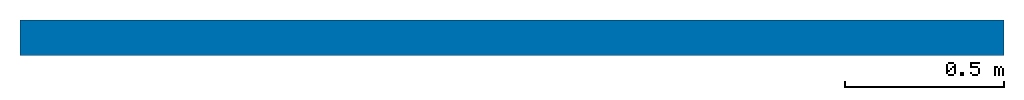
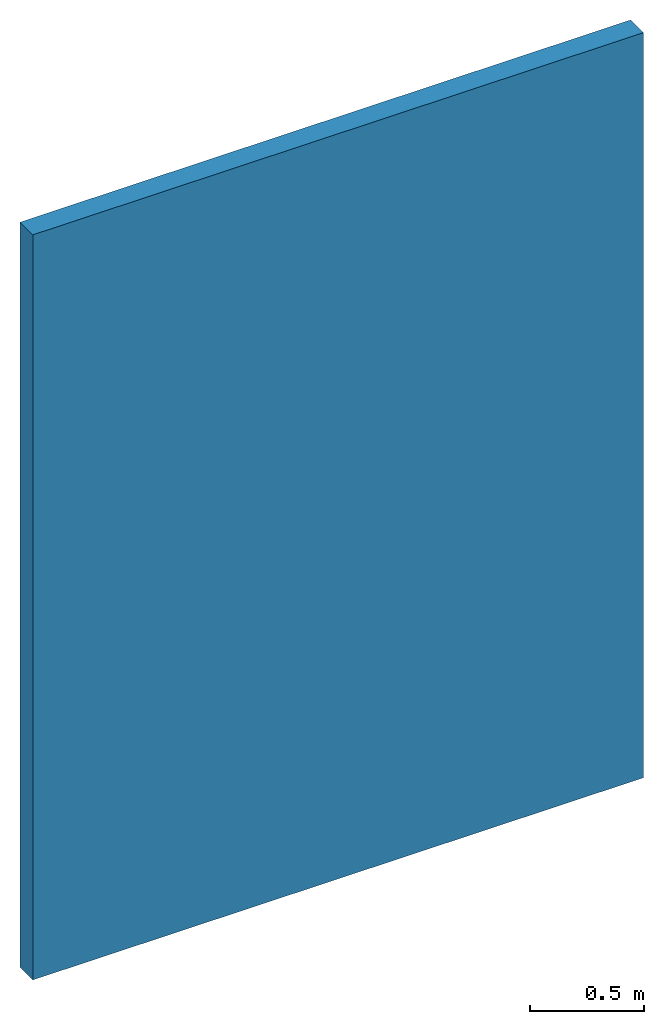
# One storey: 1 wall.
"""IFC2X3 building model written with IfcOpenShell, lengths in millimetres."""

import ifcopenshell
import ifcopenshell.guid

model = None  # the IFC model being written
_history = None  # IfcOwnerHistory: only IFC2X3 demands one
_inside = {}  # id of a spatial element -> (the spatial element, [elements in it])
_under = {}  # id of a project, library or spatial element -> (it, [spatial elements below it])
_declared = {}  # id of a project -> (the project, [libraries it declares])
_typed = {}  # id of a type object -> (the type object, [elements of that type])
_made_of = {}  # id of a material, layer set ... -> (it, [elements and type objects made of it])


def new_model(schema):
    """Start an empty IFC model of exactly this schema.

    Asked for "IFC4X3", IfcOpenShell would pick the latest addendum, in which some entities
    have other attributes; the version numbers below select the first issue.
    IFC2X3 requires an IfcOwnerHistory on every rooted entity: one is made here for all.
    """
    global model, _history
    if schema == "IFC4X3":
        model = ifcopenshell.file(schema_version=(4, 3, 0, 0))
    else:
        model = ifcopenshell.file(schema=schema)
    _inside.clear()
    _under.clear()
    _declared.clear()
    _typed.clear()
    _made_of.clear()
    _history = None
    if model.schema == "IFC2X3":
        org = make("IfcOrganization", Name="unknown")
        user = make(
            "IfcPersonAndOrganization",
            ThePerson=make("IfcPerson", FamilyName="unknown"),
            TheOrganization=org,
        )
        app = make(
            "IfcApplication",
            ApplicationDeveloper=org,
            Version="unknown",
            ApplicationFullName="unknown",
            ApplicationIdentifier="unknown",
        )
        _history = make(
            "IfcOwnerHistory",
            OwningUser=user,
            OwningApplication=app,
            ChangeAction="ADDED",
            CreationDate=0,
        )
    return model


def make(cls, **values):
    """One entity of the class cls with the attributes given. An attribute that is None is left unset."""
    return model.create_entity(
        cls, **{name: value for name, value in values.items() if value is not None}
    )


def entity(cls, *values):
    """Any entity or typed value of the class cls, its attributes in the order of the schema. None: left unset."""
    e = model.create_entity(cls)
    for i, value in enumerate(values):
        if value is not None:
            e[i] = value
    return e


def rooted(cls, **values):
    """An entity with a GlobalId (a new one), such as an element, a storey or a relation."""
    return make(cls, GlobalId=ifcopenshell.guid.new(), OwnerHistory=_history, **values)


def si_unit(unit_type, name, prefix=None):
    """IfcSIUnit, for example si_unit("LENGTHUNIT", "METRE", prefix="MILLI")."""
    return make("IfcSIUnit", UnitType=unit_type, Prefix=prefix, Name=name)


def converted_unit(unit_type, name, factor, base, dimensions=None, offset=None):
    """IfcConversionBasedUnit, such as the inch: factor (a typed value) times the base unit."""
    return make(
        "IfcConversionBasedUnit"
        if offset is None
        else "IfcConversionBasedUnitWithOffset",
        ConversionOffset=offset,
        Dimensions=None
        if dimensions is None
        else entity("IfcDimensionalExponents", *dimensions),
        UnitType=unit_type,
        Name=name,
        ConversionFactor=make(
            "IfcMeasureWithUnit", ValueComponent=factor, UnitComponent=base
        ),
    )


def derived_unit(unit_type, elements):
    """IfcDerivedUnit: a product of units, each with its exponent."""
    return make(
        "IfcDerivedUnit",
        Elements=[
            make("IfcDerivedUnitElement", Unit=unit, Exponent=power)
            for unit, power in elements
        ],
        UnitType=unit_type,
    )


def assignment(units):
    """IfcUnitAssignment: the units of a project."""
    return None if units is None else make("IfcUnitAssignment", Units=units)


def point(xyz):
    """IfcCartesianPoint."""
    return None if xyz is None else make("IfcCartesianPoint", Coordinates=xyz)


def direction(xyz):
    """IfcDirection."""
    return None if xyz is None else make("IfcDirection", DirectionRatios=xyz)


def frame(location, z_axis=None, x_axis=None):
    """IfcAxis2Placement3D, a coordinate frame: its origin and axes. An axis left out is left unset."""
    return make(
        "IfcAxis2Placement3D",
        Location=point(location),
        Axis=direction(z_axis),
        RefDirection=direction(x_axis),
    )


def frame_2d(location, x_axis=None):
    """IfcAxis2Placement2D, a coordinate frame in the plane: its origin and x axis."""
    return make(
        "IfcAxis2Placement2D", Location=point(location), RefDirection=direction(x_axis)
    )


def origin():
    """The frame at (0, 0, 0) with its axes left unset."""
    return frame((0.0, 0.0, 0.0))


def place(relative_to, where):
    """IfcLocalPlacement: puts the frame where relative to a parent placement (None: the world)."""
    return make(
        "IfcLocalPlacement", PlacementRelTo=relative_to, RelativePlacement=where
    )


def context(
    kind, dimensions, precision=None, world=None, true_north=None, identifier=None
):
    """IfcGeometricRepresentationContext, for example the 3D "Model" context."""
    return make(
        "IfcGeometricRepresentationContext",
        ContextIdentifier=identifier,
        ContextType=kind,
        CoordinateSpaceDimension=dimensions,
        Precision=precision,
        WorldCoordinateSystem=world,
        TrueNorth=true_north,
    )


def subcontext(parent, identifier, kind, view, scale=None):
    """IfcGeometricRepresentationSubContext, for example "Body" below "Model"."""
    return make(
        "IfcGeometricRepresentationSubContext",
        ContextIdentifier=identifier,
        ContextType=kind,
        ParentContext=parent,
        TargetScale=scale,
        TargetView=view,
    )


def project(units=None, contexts=None):
    """IfcProject with its units and contexts."""
    return rooted(
        "IfcProject",
        Name="project",
        RepresentationContexts=contexts,
        UnitsInContext=assignment(units),
    )


def spatial(cls, under=None, at=None, **own):
    """A site, building, storey or space (cls), placed at a placement, below another one or the project."""
    s = rooted(cls, ObjectPlacement=at, **own)
    if under is not None:
        _under.setdefault(under.id(), (under, []))[1].append(s)
    return s


def profile(cls, at=None, kind="AREA", **sizes):
    """A parametric profile (cls). Its sizes go by their IFC names, for example OverallWidth=200.0."""
    return make(cls, ProfileType=kind, Position=at, **sizes)


def rectangle(**sizes):
    """IfcRectangleProfileDef."""
    return profile("IfcRectangleProfileDef", **sizes)


def extrude(swept, where, along, depth):
    """IfcExtrudedAreaSolid: the profile swept, set in the frame where, extruded along a direction by depth."""
    return make(
        "IfcExtrudedAreaSolid",
        SweptArea=swept,
        Position=where,
        ExtrudedDirection=direction(along),
        Depth=depth,
    )


def shape(context_of_items, identifier, shape_type, items):
    """IfcShapeRepresentation: the items that make up one representation, for example the "Body"."""
    return make(
        "IfcShapeRepresentation",
        ContextOfItems=context_of_items,
        RepresentationIdentifier=identifier,
        RepresentationType=shape_type,
        Items=items,
    )


def material(Name=None, Category=None):
    """IfcMaterial."""
    return make("IfcMaterial", Name=Name, Category=Category)


def layer(
    of_material, thickness, ventilated=None, Name=None, Category=None, Priority=None
):
    """IfcMaterialLayer: one layer of a wall or slab, of a material (None: an air gap)."""
    return make(
        "IfcMaterialLayer",
        Material=of_material,
        LayerThickness=thickness,
        IsVentilated=ventilated,
        Name=Name,
        Category=Category,
        Priority=Priority,
    )


def layer_set(layers, Name=None):
    """IfcMaterialLayerSet."""
    return make("IfcMaterialLayerSet", MaterialLayers=layers, LayerSetName=Name)


def layer_usage(for_layer_set, set_direction, sense, offset, extent=None):
    """IfcMaterialLayerSetUsage: how a layer set lies in its element."""
    return make(
        "IfcMaterialLayerSetUsage",
        ForLayerSet=for_layer_set,
        LayerSetDirection=set_direction,
        DirectionSense=sense,
        OffsetFromReferenceLine=offset,
        ReferenceExtent=extent,
    )


def made_of(thing, what):
    """Note that an element or type object is made of a material, layer set ...; save() writes the relation."""
    if what is not None:
        _made_of.setdefault(what.id(), (what, []))[1].append(thing)
    return thing


def type_object(cls, material=None, **own):
    """A type object (cls), such as IfcWallType, which elements share."""
    return made_of(rooted(cls, **own), material)


def element(
    cls,
    number,
    at=None,
    inside=None,
    cuts=None,
    type_object=None,
    material=None,
    context=None,
    identifier="Body",
    shape_type=None,
    held_by="IfcProductDefinitionShape",
    body=None,
    shapes=None,
    **own,
):
    """One element of the class cls, such as IfcWall. Its Tag is "e" and its number.

    at: its placement. inside: the storey or other place that contains it. cuts: it is an
    opening in that element (IfcRelVoidsElement). A single representation is given by context,
    identifier, shape_type and body (its items); several are given by shapes. held_by: the class
    of the entity that holds the representations. save() writes the other relations.
    """
    e = rooted(cls, Tag="e%d" % number, ObjectPlacement=at, **own)
    if body is not None:
        shapes = [shape(context, identifier, shape_type, body)]
    if shapes is not None:
        e.Representation = make(held_by, Representations=shapes)
    if inside is not None:
        _inside.setdefault(inside.id(), (inside, []))[1].append(e)
    if cuts is not None:
        rooted(
            "IfcRelVoidsElement", RelatingBuildingElement=cuts, RelatedOpeningElement=e
        )
    if type_object is not None:
        _typed.setdefault(type_object.id(), (type_object, []))[1].append(e)
    return made_of(e, material)


def aggregate(whole, parts):
    """IfcRelAggregates: a whole, such as a stair, and the parts it consists of."""
    return rooted("IfcRelAggregates", RelatingObject=whole, RelatedObjects=parts)


def save(model, path):
    """Write the relations noted so far, then the file.

    IfcRelAggregates (storeys below a building ...), IfcRelContainedInSpatialStructure (elements
    in a storey), IfcRelDefinesByType, IfcRelAssociatesMaterial and IfcRelDeclares: one each for
    every whole, place, type object, material and project.
    """
    for whole, parts in _under.values():
        aggregate(whole, parts)
    for where, things in _inside.values():
        rooted(
            "IfcRelContainedInSpatialStructure",
            RelatedElements=things,
            RelatingStructure=where,
        )
    for kind, things in _typed.values():
        rooted("IfcRelDefinesByType", RelatedObjects=things, RelatingType=kind)
    for what, things in _made_of.values():
        rooted("IfcRelAssociatesMaterial", RelatedObjects=things, RelatingMaterial=what)
    for by, libraries in _declared.values():
        rooted("IfcRelDeclares", RelatingContext=by, RelatedDefinitions=libraries)
    model.write(path)


model = new_model("IFC2X3")

# Units and contexts
model_context = context("Model", 3, precision=0.01, world=origin(), true_north=direction((6.12303176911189e-17, 1.0)))
body_context = subcontext(model_context, "Body", "Model", "MODEL_VIEW")
ifc_project = project(units=[si_unit("LENGTHUNIT", "METRE", prefix="MILLI"), si_unit("AREAUNIT", "SQUARE_METRE"), si_unit("VOLUMEUNIT", "CUBIC_METRE"), converted_unit("PLANEANGLEUNIT", "DEGREE", entity("IfcRatioMeasure", 0.0174532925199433), si_unit("PLANEANGLEUNIT", "RADIAN"), dimensions=[0, 0, 0, 0, 0, 0, 0]), si_unit("MASSUNIT", "GRAM", prefix="KILO"), si_unit("TIMEUNIT", "SECOND"), si_unit("FREQUENCYUNIT", "HERTZ"), si_unit("THERMODYNAMICTEMPERATUREUNIT", "DEGREE_CELSIUS"), derived_unit("THERMALTRANSMITTANCEUNIT", [(si_unit("MASSUNIT", "GRAM", prefix="KILO"), 1), (si_unit("THERMODYNAMICTEMPERATUREUNIT", "KELVIN"), -1), (si_unit("TIMEUNIT", "SECOND"), -3)]), derived_unit("VOLUMETRICFLOWRATEUNIT", [(si_unit("LENGTHUNIT", "METRE"), 3), (si_unit("TIMEUNIT", "SECOND"), -1)]), si_unit("ELECTRICCURRENTUNIT", "AMPERE"), si_unit("ELECTRICVOLTAGEUNIT", "VOLT"), si_unit("POWERUNIT", "WATT"), si_unit("FORCEUNIT", "NEWTON", prefix="KILO"), si_unit("ILLUMINANCEUNIT", "LUX"), si_unit("LUMINOUSFLUXUNIT", "LUMEN"), si_unit("LUMINOUSINTENSITYUNIT", "CANDELA"), derived_unit("USERDEFINED", [(si_unit("MASSUNIT", "GRAM", prefix="KILO"), -1), (si_unit("LENGTHUNIT", "METRE"), -2), (si_unit("TIMEUNIT", "SECOND"), 3), (si_unit("LUMINOUSFLUXUNIT", "LUMEN"), 1)]), derived_unit("LINEARVELOCITYUNIT", [(si_unit("LENGTHUNIT", "METRE"), 1), (si_unit("TIMEUNIT", "SECOND"), -1)]), si_unit("PRESSUREUNIT", "PASCAL"), derived_unit("USERDEFINED", [(si_unit("LENGTHUNIT", "METRE"), -2), (si_unit("MASSUNIT", "GRAM", prefix="KILO"), 1), (si_unit("TIMEUNIT", "SECOND"), -2)])], contexts=[model_context])

# Site, building, storey
site_placement = place(None, origin())
site = spatial("IfcSite", under=ifc_project, at=site_placement, Name="Default", CompositionType="ELEMENT")
building_placement = place(site_placement, origin())
building = spatial("IfcBuilding", under=site, at=building_placement, CompositionType="ELEMENT")
storey_placement = place(building_placement, origin())
storey = spatial("IfcBuildingStorey", under=building, at=storey_placement, Name="Уровень 1", CompositionType="ELEMENT", Elevation=0.0)

# Wall
ifc_material_1 = material(Name="КНАУФ-лист")
ifc_layer_1 = layer(ifc_material_1, 12.5)
ifc_material_2 = material(Name="КНАУФ-профиль+мин.вата 75@600mm")
ifc_layer_2 = layer(ifc_material_2, 75.0)
ifc_material_3 = material(Name="Luft")
ifc_layer_3 = layer(ifc_material_3, 25.0)
ifc_layer_set = layer_set([ifc_layer_1, ifc_layer_2, ifc_layer_3], Name="Базовая стена:Облицовка КНАУФ С625 Применение внутри здания ПС100х50 ПН100х40 шаг 600 ГСП-А 12.5")
ifc_layer_usage = layer_usage(ifc_layer_set, "AXIS2", "NEGATIVE", 56.25)
wall_type = type_object("IfcWallType", Name="Базовая стена:Облицовка КНАУФ С625 Применение внутри здания ПС100х50 ПН100х40 шаг 600 ГСП-А 12.5", PredefinedType="STANDARD", material=ifc_layer_set)
wall_placement = place(storey_placement, frame((6672.27354075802, 864.572938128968, 0.0)))
element("IfcWallStandardCase", 1, at=wall_placement, inside=storey, type_object=wall_type, material=ifc_layer_usage, Name="Базовая стена:Облицовка КНАУФ С625 Применение внутри здания ПС100х50 ПН100х40 шаг 600 ГСП-А 12.5", ObjectType="Базовая стена:Облицовка КНАУФ С625 Применение внутри здания ПС100х50 ПН100х40 шаг 600 ГСП-А 12.5", context=body_context, shape_type="SweptSolid", body=[
    extrude(rectangle(XDim=3100.0, YDim=112.5, at=frame_2d((1550.0, 0.0), x_axis=(-1.0, 0.0))), origin(), (0.0, 0.0, 1.0), 4000.0),
])

save(model, "model.ifc")
